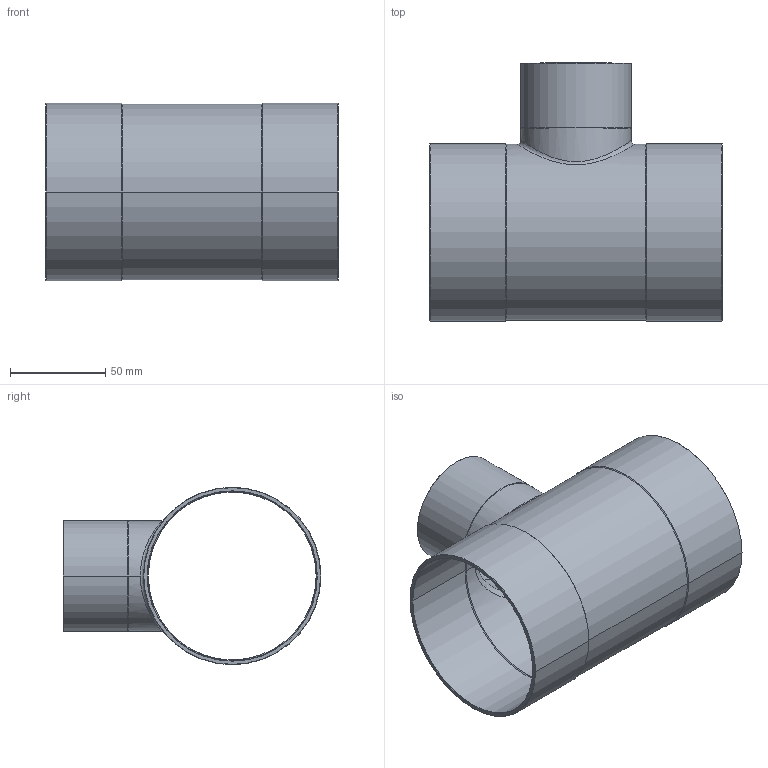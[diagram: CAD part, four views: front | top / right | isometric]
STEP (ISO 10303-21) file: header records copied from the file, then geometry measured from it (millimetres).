
FILE_DESCRIPTION((''),'2;1');
FILE_NAME('G:\Technics\CAD\Bauteile\15130\15130895489.stp','2005-11-02T10:20:04',('boden'),(''),'Autodesk Inventor 8','Autodesk Inventor 8','');
FILE_SCHEMA(('AUTOMOTIVE_DESIGN { 1 0 10303 214 1 1 1 1 }'));
Length unit declared in the file: millimetre
Products named in the file (1): 15130895489
Bounding box: 154 x 135.7 x 93.4 mm (x, y, z)
Volume: 104797 mm3; surface area: 101235.9 mm2
Topology: 1 solids, 1 shells, 49 faces, 108 edges, 60 vertices
Faces by surface type: cone 24, cylinder 20, plane 3, bspline 2
Entity records: 1765 total; most frequent: CARTESIAN_POINT 658, DIRECTION 242, ORIENTED_EDGE 216, EDGE_CURVE 108, AXIS2_PLACEMENT_3D 98, VERTEX_POINT 60, EDGE_LOOP 52, CIRCLE 50
